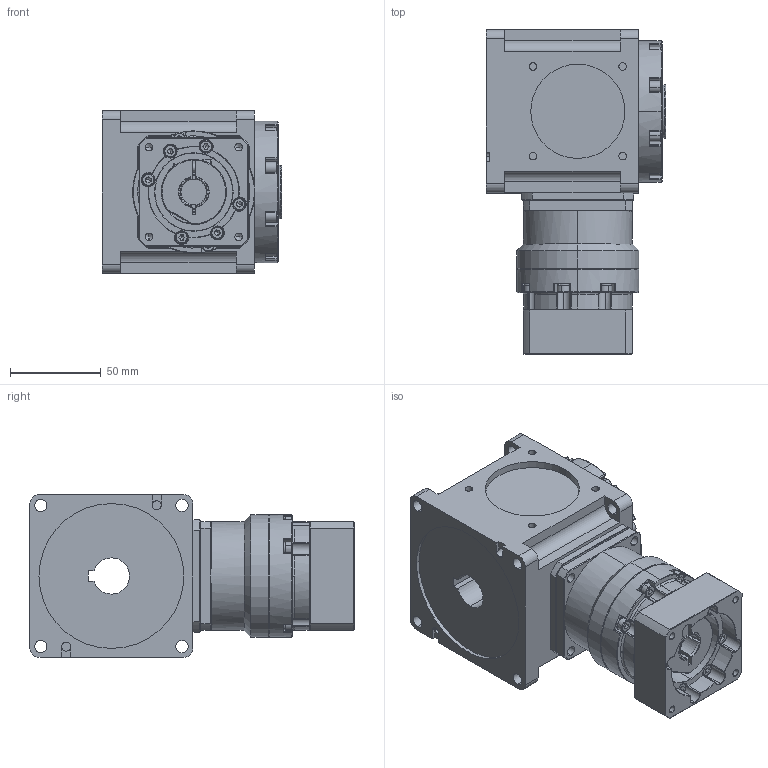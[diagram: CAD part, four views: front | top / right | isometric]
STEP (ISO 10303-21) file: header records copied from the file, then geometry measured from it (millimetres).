
FILE_DESCRIPTION (( 'STEP AP214' ), '1' );
FILE_NAME ('CCW090A-L1(6-20)-CR 14-50-70-M5.STEP', '2025-06-03T02:43:04', ( '微软用户' ), ( '微软中国' ), 'SwSTEP 2.0', 'SolidWorks 2024', '' );
FILE_SCHEMA (( 'AUTOMOTIVE_DESIGN' ));
Length unit declared in the file: millimetre
Products named in the file (3): CCW090A-L1(6-20)-CR 14-50-70-M5; VRB-060-L1-S2-P1 14-50-70-M5; CCW090A-002-CR箱体
Assembly tree (2 placements, depth 2):
  CCW090A-L1(6-20)-CR 14-50-70-M5
    CCW090A-002-CR箱体
    VRB-060-L1-S2-P1 14-50-70-M5
Bounding box: 99 x 179 x 90 mm (x, y, z)
Volume: 867298.8 mm3; surface area: 134746.2 mm2
Topology: 33 solids, 33 shells, 1450 faces, 3557 edges, 2213 vertices
Faces by surface type: plane 562, cylinder 549, cone 226, torus 81, sphere 20, bspline 12
Entity records: 43636 total; most frequent: CARTESIAN_POINT 8526, DIRECTION 7736, ORIENTED_EDGE 6966, EDGE_CURVE 3483, AXIS2_PLACEMENT_3D 3048, VERTEX_POINT 2205, VECTOR 1640, LINE 1640
